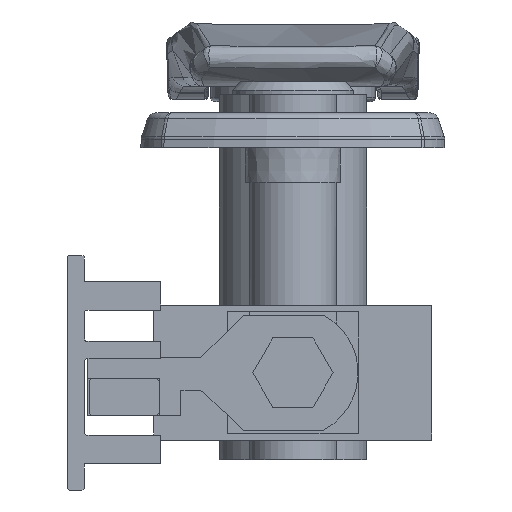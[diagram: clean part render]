
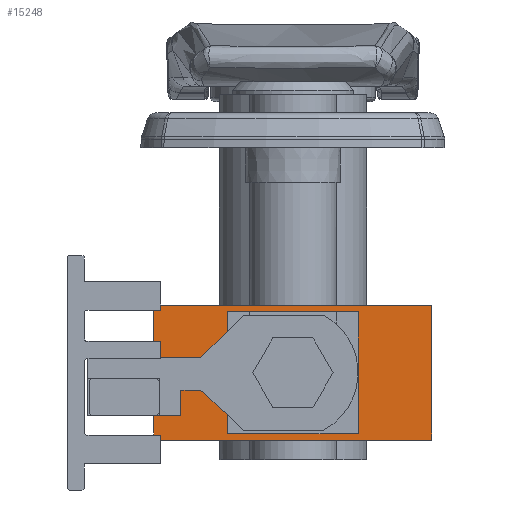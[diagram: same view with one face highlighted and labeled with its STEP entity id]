
A CAD part, front view. The second image highlights one B-rep face of the part: STEP entity #15248.
In plain terms, the highlighted planar face has unit normal (0, -1, 0).
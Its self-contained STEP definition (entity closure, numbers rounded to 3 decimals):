
#254 = VERTEX_POINT ( 'NONE', #7932 ) ;
#891 = LINE ( 'NONE', #26203, #22521 ) ;
#1240 = EDGE_CURVE ( 'NONE', #8906, #10446, #13895, .T. ) ;
#1867 = CARTESIAN_POINT ( 'NONE',  ( -16., -199.25, 7.75 ) ) ;
#2732 = EDGE_CURVE ( 'NONE', #27729, #21382, #30630, .T. ) ;
#2963 = CARTESIAN_POINT ( 'NONE',  ( -16., -199.25, -7.75 ) ) ;
#3547 = LINE ( 'NONE', #6430, #25192 ) ;
#5182 = CARTESIAN_POINT ( 'NONE',  ( 7., -199.25, -6.25 ) ) ;
#5251 = VECTOR ( 'NONE', #21824, 1000. ) ;
#5600 = LINE ( 'NONE', #31601, #30395 ) ;
#5986 = VERTEX_POINT ( 'NONE', #5182 ) ;
#6430 = CARTESIAN_POINT ( 'NONE',  ( 7., -199.25, 6.25 ) ) ;
#6970 = DIRECTION ( 'NONE',  ( 0., 0., 1. ) ) ;
#7380 = ORIENTED_EDGE ( 'NONE', *, *, #7530, .F. ) ;
#7530 = EDGE_CURVE ( 'NONE', #21382, #8929, #5600, .T. ) ;
#7932 = CARTESIAN_POINT ( 'NONE',  ( -16., -199.25, -7.75 ) ) ;
#8089 = CARTESIAN_POINT ( 'NONE',  ( 7., -199.25, 6.25 ) ) ;
#8571 = LINE ( 'NONE', #8089, #25107 ) ;
#8906 = VERTEX_POINT ( 'NONE', #14868 ) ;
#8929 = VERTEX_POINT ( 'NONE', #27703 ) ;
#9235 = EDGE_CURVE ( 'NONE', #27729, #254, #12132, .T. ) ;
#9489 = PLANE ( 'NONE',  #21341 ) ;
#10446 = VERTEX_POINT ( 'NONE', #18964 ) ;
#11075 = ORIENTED_EDGE ( 'NONE', *, *, #9235, .T. ) ;
#11099 = EDGE_CURVE ( 'NONE', #15012, #8906, #3547, .T. ) ;
#12132 = LINE ( 'NONE', #22424, #13826 ) ;
#12760 = DIRECTION ( 'NONE',  ( 1., 0., 0. ) ) ;
#13089 = LINE ( 'NONE', #2963, #13837 ) ;
#13396 = CARTESIAN_POINT ( 'NONE',  ( -7., -199.25, -6.25 ) ) ;
#13826 = VECTOR ( 'NONE', #33256, 1000. ) ;
#13837 = VECTOR ( 'NONE', #12760, 1000. ) ;
#13895 = LINE ( 'NONE', #13396, #5251 ) ;
#14083 = ORIENTED_EDGE ( 'NONE', *, *, #1240, .F. ) ;
#14163 = DIRECTION ( 'NONE',  ( -1., 0., 0. ) ) ;
#14868 = CARTESIAN_POINT ( 'NONE',  ( -7., -199.25, 6.25 ) ) ;
#15012 = VERTEX_POINT ( 'NONE', #26400 ) ;
#15238 = ORIENTED_EDGE ( 'NONE', *, *, #20029, .F. ) ;
#15248 = ADVANCED_FACE ( 'NONE', ( #22313, #27398 ), #9489, .F. ) ;
#15891 = DIRECTION ( 'NONE',  ( 0., 0., -1. ) ) ;
#16171 = DIRECTION ( 'NONE',  ( 0., 0., 1. ) ) ;
#16647 = EDGE_CURVE ( 'NONE', #254, #8929, #13089, .T. ) ;
#16652 = ORIENTED_EDGE ( 'NONE', *, *, #26959, .F. ) ;
#17963 = CARTESIAN_POINT ( 'NONE',  ( -16., -199.25, 7.75 ) ) ;
#18454 = ORIENTED_EDGE ( 'NONE', *, *, #16647, .T. ) ;
#18964 = CARTESIAN_POINT ( 'NONE',  ( -7., -199.25, -6.25 ) ) ;
#19794 = CARTESIAN_POINT ( 'NONE',  ( -16., -199.25, 7.75 ) ) ;
#20029 = EDGE_CURVE ( 'NONE', #10446, #5986, #891, .T. ) ;
#21341 = AXIS2_PLACEMENT_3D ( 'NONE', #19794, #30090, #6970 ) ;
#21382 = VERTEX_POINT ( 'NONE', #25582 ) ;
#21824 = DIRECTION ( 'NONE',  ( 0., 0., -1. ) ) ;
#22313 = FACE_BOUND ( 'NONE', #23354, .T. ) ;
#22424 = CARTESIAN_POINT ( 'NONE',  ( -16., -199.25, 7.75 ) ) ;
#22521 = VECTOR ( 'NONE', #23987, 1000. ) ;
#23354 = EDGE_LOOP ( 'NONE', ( #14083, #27047, #16652, #15238 ) ) ;
#23987 = DIRECTION ( 'NONE',  ( 1., 0., 0. ) ) ;
#25107 = VECTOR ( 'NONE', #16171, 1000. ) ;
#25192 = VECTOR ( 'NONE', #14163, 1000. ) ;
#25251 = VECTOR ( 'NONE', #31120, 1000. ) ;
#25582 = CARTESIAN_POINT ( 'NONE',  ( 16., -199.25, 7.75 ) ) ;
#26203 = CARTESIAN_POINT ( 'NONE',  ( -7., -199.25, -6.25 ) ) ;
#26366 = ORIENTED_EDGE ( 'NONE', *, *, #2732, .F. ) ;
#26400 = CARTESIAN_POINT ( 'NONE',  ( 7., -199.25, 6.25 ) ) ;
#26959 = EDGE_CURVE ( 'NONE', #5986, #15012, #8571, .T. ) ;
#27047 = ORIENTED_EDGE ( 'NONE', *, *, #11099, .F. ) ;
#27398 = FACE_OUTER_BOUND ( 'NONE', #31185, .T. ) ;
#27703 = CARTESIAN_POINT ( 'NONE',  ( 16., -199.25, -7.75 ) ) ;
#27729 = VERTEX_POINT ( 'NONE', #1867 ) ;
#30090 = DIRECTION ( 'NONE',  ( 0., 1., 0. ) ) ;
#30395 = VECTOR ( 'NONE', #15891, 1000. ) ;
#30630 = LINE ( 'NONE', #17963, #25251 ) ;
#31120 = DIRECTION ( 'NONE',  ( 1., 0., 0. ) ) ;
#31185 = EDGE_LOOP ( 'NONE', ( #18454, #7380, #26366, #11075 ) ) ;
#31601 = CARTESIAN_POINT ( 'NONE',  ( 16., -199.25, 7.75 ) ) ;
#33256 = DIRECTION ( 'NONE',  ( 0., 0., -1. ) ) ;
